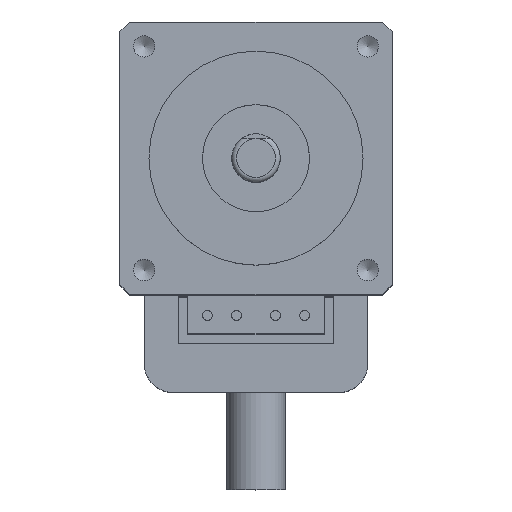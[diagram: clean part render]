
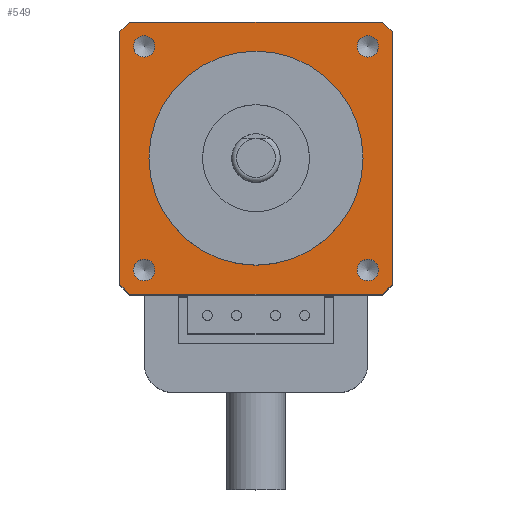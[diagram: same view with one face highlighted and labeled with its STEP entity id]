
A CAD part, top view. The second image highlights one B-rep face of the part: STEP entity #549.
In plain terms, the highlighted planar face has unit normal (0, 0, 1).
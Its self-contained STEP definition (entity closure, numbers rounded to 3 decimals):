
#125=LINE('',#2033,#272);
#128=LINE('',#2039,#275);
#131=LINE('',#2045,#278);
#133=LINE('',#2049,#280);
#136=LINE('',#2063,#283);
#137=LINE('',#2064,#284);
#138=LINE('',#2065,#285);
#139=LINE('',#2066,#286);
#272=VECTOR('',#1651,1.);
#275=VECTOR('',#1656,1.);
#278=VECTOR('',#1661,1.);
#280=VECTOR('',#1665,1.);
#283=VECTOR('',#1678,1.);
#284=VECTOR('',#1679,1.);
#285=VECTOR('',#1680,1.);
#286=VECTOR('',#1681,1.);
#480=PLANE('',#1516);
#549=ADVANCED_FACE('',(#647,#648,#649,#650,#651,#652),#480,.F.);
#647=FACE_BOUND('',#702,.T.);
#648=FACE_BOUND('',#703,.T.);
#649=FACE_BOUND('',#704,.T.);
#650=FACE_BOUND('',#705,.T.);
#651=FACE_BOUND('',#706,.T.);
#652=FACE_BOUND('',#707,.T.);
#702=EDGE_LOOP('',(#833));
#703=EDGE_LOOP('',(#834));
#704=EDGE_LOOP('',(#835));
#705=EDGE_LOOP('',(#836));
#706=EDGE_LOOP('',(#837));
#707=EDGE_LOOP('',(#838,#839,#840,#841,#842,#843,#844,#845));
#833=ORIENTED_EDGE('',*,*,#1313,.T.);
#834=ORIENTED_EDGE('',*,*,#1314,.T.);
#835=ORIENTED_EDGE('',*,*,#1315,.T.);
#836=ORIENTED_EDGE('',*,*,#1316,.T.);
#837=ORIENTED_EDGE('',*,*,#1292,.T.);
#838=ORIENTED_EDGE('',*,*,#1302,.F.);
#839=ORIENTED_EDGE('',*,*,#1317,.T.);
#840=ORIENTED_EDGE('',*,*,#1310,.F.);
#841=ORIENTED_EDGE('',*,*,#1318,.T.);
#842=ORIENTED_EDGE('',*,*,#1308,.F.);
#843=ORIENTED_EDGE('',*,*,#1319,.T.);
#844=ORIENTED_EDGE('',*,*,#1305,.F.);
#845=ORIENTED_EDGE('',*,*,#1320,.T.);
#1162=VERTEX_POINT('',#2011);
#1171=VERTEX_POINT('',#2032);
#1172=VERTEX_POINT('',#2034);
#1173=VERTEX_POINT('',#2038);
#1174=VERTEX_POINT('',#2040);
#1175=VERTEX_POINT('',#2044);
#1176=VERTEX_POINT('',#2046);
#1177=VERTEX_POINT('',#2050);
#1178=VERTEX_POINT('',#2051);
#1179=VERTEX_POINT('',#2056);
#1180=VERTEX_POINT('',#2058);
#1181=VERTEX_POINT('',#2060);
#1182=VERTEX_POINT('',#2062);
#1292=EDGE_CURVE('',#1162,#1162,#1469,.T.);
#1302=EDGE_CURVE('',#1171,#1172,#125,.T.);
#1305=EDGE_CURVE('',#1173,#1174,#128,.T.);
#1308=EDGE_CURVE('',#1175,#1176,#131,.T.);
#1310=EDGE_CURVE('',#1177,#1178,#133,.T.);
#1313=EDGE_CURVE('',#1179,#1179,#1470,.T.);
#1314=EDGE_CURVE('',#1180,#1180,#1471,.T.);
#1315=EDGE_CURVE('',#1181,#1181,#1472,.T.);
#1316=EDGE_CURVE('',#1182,#1182,#1473,.T.);
#1317=EDGE_CURVE('',#1171,#1178,#136,.T.);
#1318=EDGE_CURVE('',#1177,#1176,#137,.T.);
#1319=EDGE_CURVE('',#1175,#1174,#138,.T.);
#1320=EDGE_CURVE('',#1173,#1172,#139,.T.);
#1469=CIRCLE('',#1504,11.);
#1470=CIRCLE('',#1512,1.1);
#1471=CIRCLE('',#1513,1.1);
#1472=CIRCLE('',#1514,1.1);
#1473=CIRCLE('',#1515,1.1);
#1504=AXIS2_PLACEMENT_3D('',#2010,#1634,#1635);
#1512=AXIS2_PLACEMENT_3D('',#2055,#1670,#1671);
#1513=AXIS2_PLACEMENT_3D('',#2057,#1672,#1673);
#1514=AXIS2_PLACEMENT_3D('',#2059,#1674,#1675);
#1515=AXIS2_PLACEMENT_3D('',#2061,#1676,#1677);
#1516=AXIS2_PLACEMENT_3D('',#2067,#1682,#1683);
#1634=DIRECTION('',(0.,0.,-1.));
#1635=DIRECTION('',(1.,0.,0.));
#1651=DIRECTION('',(0.,1.,0.));
#1656=DIRECTION('',(1.,0.,0.));
#1661=DIRECTION('',(0.,-1.,0.));
#1665=DIRECTION('',(-1.,0.,0.));
#1670=DIRECTION('',(0.,0.,-1.));
#1671=DIRECTION('',(-1.,0.,0.));
#1672=DIRECTION('',(0.,0.,-1.));
#1673=DIRECTION('',(-1.,0.,0.));
#1674=DIRECTION('',(0.,0.,-1.));
#1675=DIRECTION('',(-1.,0.,0.));
#1676=DIRECTION('',(0.,0.,-1.));
#1677=DIRECTION('',(-1.,0.,0.));
#1678=DIRECTION('',(0.707,-0.707,0.));
#1679=DIRECTION('',(0.707,0.707,0.));
#1680=DIRECTION('',(-0.707,0.707,0.));
#1681=DIRECTION('',(-0.707,-0.707,0.));
#1682=DIRECTION('',(0.,0.,-1.));
#1683=DIRECTION('',(-1.,0.,0.));
#2010=CARTESIAN_POINT('',(0.,0.,0.));
#2011=CARTESIAN_POINT('',(11.,0.,0.));
#2032=CARTESIAN_POINT('',(-14.,-13.,0.));
#2033=CARTESIAN_POINT('',(-14.,-14.,0.));
#2034=CARTESIAN_POINT('',(-14.,13.,0.));
#2038=CARTESIAN_POINT('',(-13.,14.,0.));
#2039=CARTESIAN_POINT('',(-14.,14.,0.));
#2040=CARTESIAN_POINT('',(13.,14.,0.));
#2044=CARTESIAN_POINT('',(14.,13.,0.));
#2045=CARTESIAN_POINT('',(14.,14.,0.));
#2046=CARTESIAN_POINT('',(14.,-13.,0.));
#2049=CARTESIAN_POINT('',(14.,-14.,0.));
#2050=CARTESIAN_POINT('',(13.,-14.,0.));
#2051=CARTESIAN_POINT('',(-13.,-14.,0.));
#2055=CARTESIAN_POINT('',(11.5,11.5,0.));
#2056=CARTESIAN_POINT('',(10.4,11.5,0.));
#2057=CARTESIAN_POINT('',(-11.5,11.5,0.));
#2058=CARTESIAN_POINT('',(-12.6,11.5,0.));
#2059=CARTESIAN_POINT('',(-11.5,-11.5,0.));
#2060=CARTESIAN_POINT('',(-12.6,-11.5,0.));
#2061=CARTESIAN_POINT('',(11.5,-11.5,0.));
#2062=CARTESIAN_POINT('',(10.4,-11.5,0.));
#2063=CARTESIAN_POINT('',(-14.,-13.,0.));
#2064=CARTESIAN_POINT('',(13.,-14.,0.));
#2065=CARTESIAN_POINT('',(14.,13.,0.));
#2066=CARTESIAN_POINT('',(-13.,14.,0.));
#2067=CARTESIAN_POINT('',(-14.,-14.,0.));
